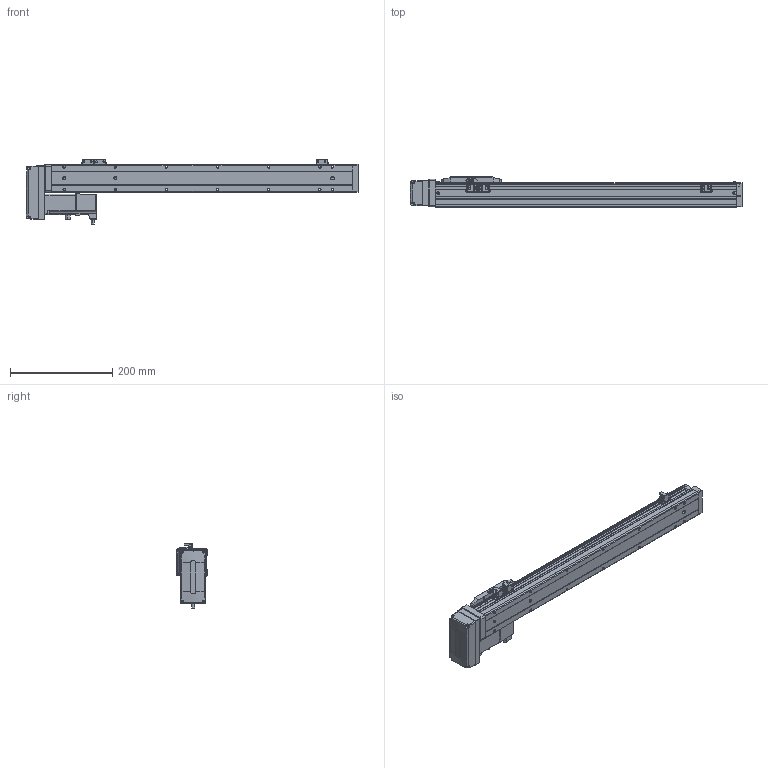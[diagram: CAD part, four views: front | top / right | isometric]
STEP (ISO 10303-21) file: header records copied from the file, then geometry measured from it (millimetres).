
FILE_DESCRIPTION (( 'STEP AP203' ), '1' );
FILE_NAME ('CTH5-L10-S450-BR-C10(¼ò).STEP', '2023-02-04T02:28:45', ( '' ), ( '' ), 'SwSTEP 2.0', 'SolidWorks 2018', '' );
FILE_SCHEMA (( 'CONFIG_CONTROL_DESIGN' ));
Length unit declared in the file: millimetre
Products named in the file (22): 内六角圆柱头螺钉M3-2; M3｡｣; T10-p1; CTH5-L10-S450-BR-C10(潠); 葩璃 蚾饜极13^CTH8-L10-S50-BM-C40(潠)1; CTH嫖萇羲壽假蚾啣; CTH5綴耜啣; 嫖萇羲壽郪磁1; CTH5-BL-T10_body5; CTH5耜蚾欶; PM-Y45; 葩璃 蚾饜极16^CTH5-L10-S450-BR-C10(潠); CTH5耜蚾蟀諉啣(潠); CTH5耜晚蹟隊; CTH5覜茼え; CTH5菁釱-L590; CTH5賑怢; hex nuts, style 1-grades ab gb_GB_FASTENER_NUT_SNAB1 M3-N; CTH100W假蚾啣; 100W萇儂; CTH5耜晚蹟隊-1; CTH5ヶ耜啣(潠)
Assembly tree (37 placements, depth 4):
  CTH5-L10-S450-BR-C10(潠)
    CTH5綴耜啣
    CTH5賑怢
    CTH5ヶ耜啣(潠)
    CTH5菁釱-L590
    CTH5耜晚蹟隊  x2
    嫖萇羲壽郪磁1  x2
      CTH嫖萇羲壽假蚾啣
      PM-Y45
      M3｡｣
      内六角圆柱头螺钉M3-2
      hex nuts, style 1-grades ab gb_GB_FASTENER_NUT_SNAB1 M3-N
    CTH5覜茼え
    葩璃 蚾饜极13^CTH8-L10-S50-BM-C40(潠)1
      CTH嫖萇羲壽假蚾啣
      PM-Y45
      内六角圆柱头螺钉M3-2  x2
      M3｡｣  x2
      hex nuts, style 1-grades ab gb_GB_FASTENER_NUT_SNAB1 M3-N  x2
    CTH5耜晚蹟隊-1  x4
    葩璃 蚾饜极16^CTH5-L10-S450-BR-C10(潠)
      CTH5耜蚾蟀諉啣(潠)
      CTH5耜蚾欶
        CTH5-BL-T10_body5
      100W萇儂
        T10-p1
      CTH100W假蚾啣
Bounding box: 650 x 60 x 126.31 mm (x, y, z)
Volume: 1661612.9 mm3; surface area: 245033.6 mm2
Topology: 39 solids, 39 shells, 1607 faces, 4033 edges, 2604 vertices
Faces by surface type: plane 890, cylinder 468, cone 191, torus 40, bspline 18
Entity records: 37471 total; most frequent: CARTESIAN_POINT 6940, DIRECTION 5917, ORIENTED_EDGE 5690, EDGE_CURVE 2845, AXIS2_PLACEMENT_3D 2036, VECTOR 1845, LINE 1845, VERTEX_POINT 1832
